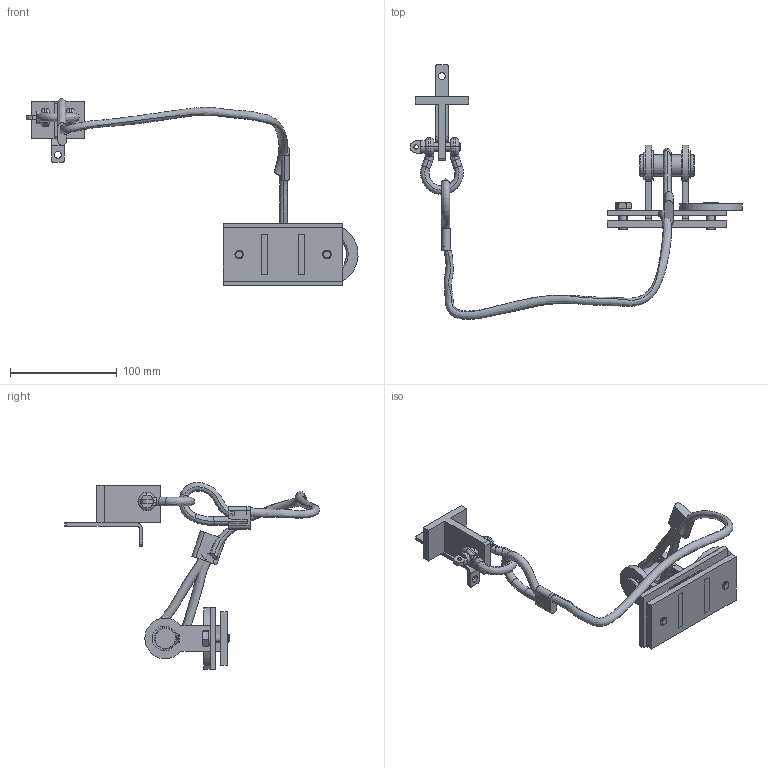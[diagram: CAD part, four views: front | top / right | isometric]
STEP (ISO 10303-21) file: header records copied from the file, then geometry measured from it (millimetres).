
FILE_DESCRIPTION (( 'STEP AP203' ), '1' );
FILE_NAME ('900.100.107.STEP', '2015-05-25T11:41:11', ( '' ), ( '' ), 'SwSTEP 2.0', 'SolidWorks 2012', '' );
FILE_SCHEMA (( 'CONFIG_CONTROL_DESIGN' ));
Length unit declared in the file: millimetre
Products named in the file (1): 900.100.107
Bounding box: 310.41 x 238.16 x 174.83 mm (x, y, z)
Volume: 183453.7 mm3; surface area: 86061.3 mm2
Topology: 22 solids, 22 shells, 348 faces, 812 edges, 513 vertices
Faces by surface type: plane 138, cylinder 122, bspline 42, torus 24, cone 22
Entity records: 12710 total; most frequent: CARTESIAN_POINT 4738, DIRECTION 1668, ORIENTED_EDGE 1616, EDGE_CURVE 808, AXIS2_PLACEMENT_3D 658, VERTEX_POINT 511, EDGE_LOOP 391, CIRCLE 353
